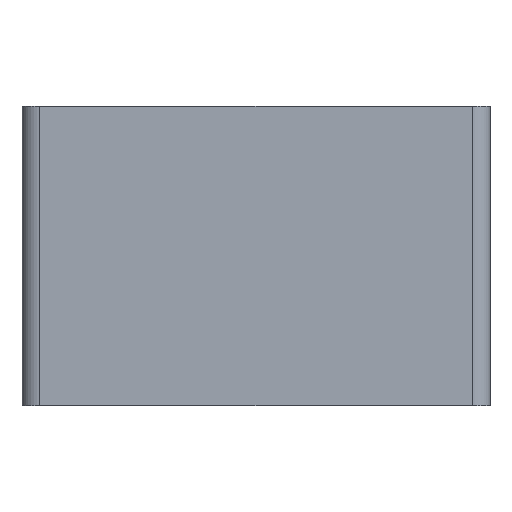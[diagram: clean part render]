
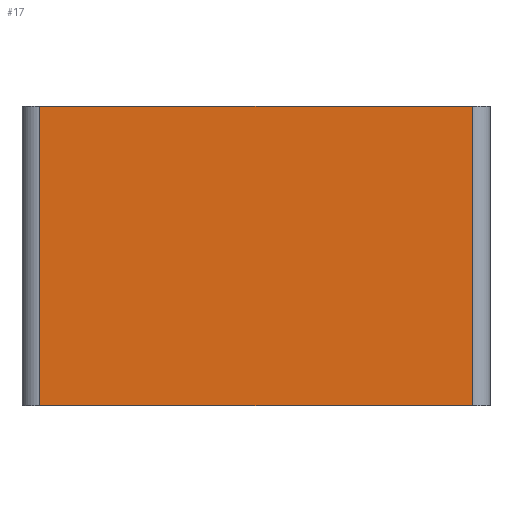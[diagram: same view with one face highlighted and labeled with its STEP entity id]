
A CAD part, left-side view. The second image highlights one B-rep face of the part: STEP entity #17.
In plain terms, the highlighted planar face has unit normal (-1, 0, 0).
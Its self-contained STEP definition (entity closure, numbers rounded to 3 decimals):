
#17 = ADVANCED_FACE('',(#18),#32,.F.);
#18 = FACE_BOUND('',#19,.F.);
#19 = EDGE_LOOP('',(#20,#55,#83,#111));
#20 = ORIENTED_EDGE('',*,*,#21,.F.);
#21 = EDGE_CURVE('',#22,#24,#26,.T.);
#22 = VERTEX_POINT('',#23);
#23 = CARTESIAN_POINT('',(-5.,-7.4,10.25));
#24 = VERTEX_POINT('',#25);
#25 = CARTESIAN_POINT('',(-5.,7.4,10.25));
#26 = SURFACE_CURVE('',#27,(#31,#43),.PCURVE_S1.);
#27 = LINE('',#28,#29);
#28 = CARTESIAN_POINT('',(-5.,-8.,10.25));
#29 = VECTOR('',#30,1.);
#30 = DIRECTION('',(0.,1.,0.));
#31 = PCURVE('',#32,#37);
#32 = PLANE('',#33);
#33 = AXIS2_PLACEMENT_3D('',#34,#35,#36);
#34 = CARTESIAN_POINT('',(-5.,-8.,0.));
#35 = DIRECTION('',(1.,0.,0.));
#36 = DIRECTION('',(0.,0.,1.));
#37 = DEFINITIONAL_REPRESENTATION('',(#38),#42);
#38 = LINE('',#39,#40);
#39 = CARTESIAN_POINT('',(10.25,0.));
#40 = VECTOR('',#41,1.);
#41 = DIRECTION('',(0.,-1.));
#42 = ( GEOMETRIC_REPRESENTATION_CONTEXT(2) 
PARAMETRIC_REPRESENTATION_CONTEXT() REPRESENTATION_CONTEXT('2D SPACE',''
  ) );
#43 = PCURVE('',#44,#49);
#44 = PLANE('',#45);
#45 = AXIS2_PLACEMENT_3D('',#46,#47,#48);
#46 = CARTESIAN_POINT('',(-5.,-8.,10.25));
#47 = DIRECTION('',(0.,0.,1.));
#48 = DIRECTION('',(1.,0.,0.));
#49 = DEFINITIONAL_REPRESENTATION('',(#50),#54);
#50 = LINE('',#51,#52);
#51 = CARTESIAN_POINT('',(0.,0.));
#52 = VECTOR('',#53,1.);
#53 = DIRECTION('',(0.,1.));
#54 = ( GEOMETRIC_REPRESENTATION_CONTEXT(2) 
PARAMETRIC_REPRESENTATION_CONTEXT() REPRESENTATION_CONTEXT('2D SPACE',''
  ) );
#55 = ORIENTED_EDGE('',*,*,#56,.F.);
#56 = EDGE_CURVE('',#57,#22,#59,.T.);
#57 = VERTEX_POINT('',#58);
#58 = CARTESIAN_POINT('',(-5.,-7.4,0.));
#59 = SURFACE_CURVE('',#60,(#64,#71),.PCURVE_S1.);
#60 = LINE('',#61,#62);
#61 = CARTESIAN_POINT('',(-5.,-7.4,0.));
#62 = VECTOR('',#63,1.);
#63 = DIRECTION('',(0.,0.,1.));
#64 = PCURVE('',#32,#65);
#65 = DEFINITIONAL_REPRESENTATION('',(#66),#70);
#66 = LINE('',#67,#68);
#67 = CARTESIAN_POINT('',(0.,-0.6));
#68 = VECTOR('',#69,1.);
#69 = DIRECTION('',(1.,0.));
#70 = ( GEOMETRIC_REPRESENTATION_CONTEXT(2) 
PARAMETRIC_REPRESENTATION_CONTEXT() REPRESENTATION_CONTEXT('2D SPACE',''
  ) );
#71 = PCURVE('',#72,#77);
#72 = CYLINDRICAL_SURFACE('',#73,0.6);
#73 = AXIS2_PLACEMENT_3D('',#74,#75,#76);
#74 = CARTESIAN_POINT('',(-4.4,-7.4,0.));
#75 = DIRECTION('',(0.,0.,1.));
#76 = DIRECTION('',(-1.,-0.,0.));
#77 = DEFINITIONAL_REPRESENTATION('',(#78),#82);
#78 = LINE('',#79,#80);
#79 = CARTESIAN_POINT('',(0.,0.));
#80 = VECTOR('',#81,1.);
#81 = DIRECTION('',(0.,1.));
#82 = ( GEOMETRIC_REPRESENTATION_CONTEXT(2) 
PARAMETRIC_REPRESENTATION_CONTEXT() REPRESENTATION_CONTEXT('2D SPACE',''
  ) );
#83 = ORIENTED_EDGE('',*,*,#84,.T.);
#84 = EDGE_CURVE('',#57,#85,#87,.T.);
#85 = VERTEX_POINT('',#86);
#86 = CARTESIAN_POINT('',(-5.,7.4,0.));
#87 = SURFACE_CURVE('',#88,(#92,#99),.PCURVE_S1.);
#88 = LINE('',#89,#90);
#89 = CARTESIAN_POINT('',(-5.,-8.,0.));
#90 = VECTOR('',#91,1.);
#91 = DIRECTION('',(0.,1.,0.));
#92 = PCURVE('',#32,#93);
#93 = DEFINITIONAL_REPRESENTATION('',(#94),#98);
#94 = LINE('',#95,#96);
#95 = CARTESIAN_POINT('',(0.,0.));
#96 = VECTOR('',#97,1.);
#97 = DIRECTION('',(0.,-1.));
#98 = ( GEOMETRIC_REPRESENTATION_CONTEXT(2) 
PARAMETRIC_REPRESENTATION_CONTEXT() REPRESENTATION_CONTEXT('2D SPACE',''
  ) );
#99 = PCURVE('',#100,#105);
#100 = PLANE('',#101);
#101 = AXIS2_PLACEMENT_3D('',#102,#103,#104);
#102 = CARTESIAN_POINT('',(-5.,-8.,0.));
#103 = DIRECTION('',(0.,0.,1.));
#104 = DIRECTION('',(1.,0.,0.));
#105 = DEFINITIONAL_REPRESENTATION('',(#106),#110);
#106 = LINE('',#107,#108);
#107 = CARTESIAN_POINT('',(0.,0.));
#108 = VECTOR('',#109,1.);
#109 = DIRECTION('',(0.,1.));
#110 = ( GEOMETRIC_REPRESENTATION_CONTEXT(2) 
PARAMETRIC_REPRESENTATION_CONTEXT() REPRESENTATION_CONTEXT('2D SPACE',''
  ) );
#111 = ORIENTED_EDGE('',*,*,#112,.T.);
#112 = EDGE_CURVE('',#85,#24,#113,.T.);
#113 = SURFACE_CURVE('',#114,(#118,#125),.PCURVE_S1.);
#114 = LINE('',#115,#116);
#115 = CARTESIAN_POINT('',(-5.,7.4,0.));
#116 = VECTOR('',#117,1.);
#117 = DIRECTION('',(0.,0.,1.));
#118 = PCURVE('',#32,#119);
#119 = DEFINITIONAL_REPRESENTATION('',(#120),#124);
#120 = LINE('',#121,#122);
#121 = CARTESIAN_POINT('',(0.,-15.4));
#122 = VECTOR('',#123,1.);
#123 = DIRECTION('',(1.,0.));
#124 = ( GEOMETRIC_REPRESENTATION_CONTEXT(2) 
PARAMETRIC_REPRESENTATION_CONTEXT() REPRESENTATION_CONTEXT('2D SPACE',''
  ) );
#125 = PCURVE('',#126,#131);
#126 = CYLINDRICAL_SURFACE('',#127,0.6);
#127 = AXIS2_PLACEMENT_3D('',#128,#129,#130);
#128 = CARTESIAN_POINT('',(-4.4,7.4,0.));
#129 = DIRECTION('',(0.,0.,1.));
#130 = DIRECTION('',(-1.,-0.,0.));
#131 = DEFINITIONAL_REPRESENTATION('',(#132),#136);
#132 = LINE('',#133,#134);
#133 = CARTESIAN_POINT('',(-0.,0.));
#134 = VECTOR('',#135,1.);
#135 = DIRECTION('',(-0.,1.));
#136 = ( GEOMETRIC_REPRESENTATION_CONTEXT(2) 
PARAMETRIC_REPRESENTATION_CONTEXT() REPRESENTATION_CONTEXT('2D SPACE',''
  ) );
